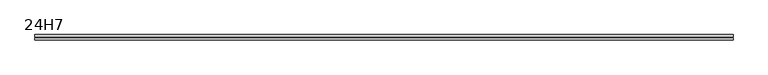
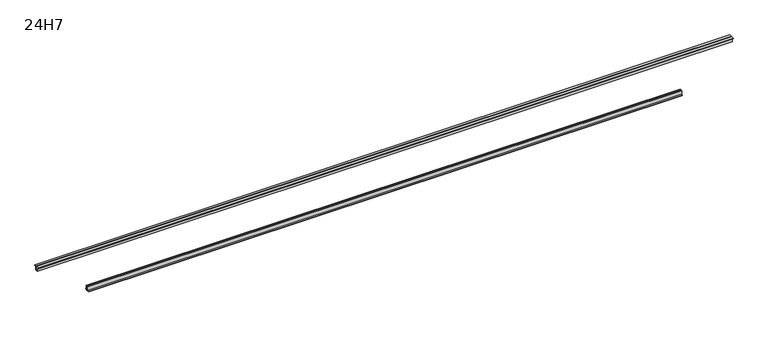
"""IFC4 building model written with IfcOpenShell, lengths in millimetres: beam geometry, steel H-series barjoist : 24H7."""

from ifc_helpers import new_model, si_unit, frame, origin, place, context, project, spatial, polyline, outline, extrude, source, transform, mapped, element, save


def beam_24h7_efb412ec(model_context):
    return source(origin(), model_context, "Body", "SweptSolid", [
        extrude(outline(polyline([(-38.1, -609.6), (-38.1, -596.9), (-18.5706618, -596.9), (-18.5706618, -546.1), (-5.8706618, -546.1), (-5.8706618, -609.6), (-38.1, -609.6)])), frame((-3150.1906977, 0.0, 0.0), z_axis=(1.0, 0.0, 0.0), x_axis=(0.0, 1.0, 0.0)), (0.0, 0.0, 1.0), 8331.2),
        extrude(outline(polyline([(38.1, -609.6), (5.8706618, -609.6), (5.8706618, -546.1), (18.5706618, -546.1), (18.5706618, -596.9), (38.1, -596.9), (38.1, -609.6)])), frame((-3150.1906977, 0.0, 0.0), z_axis=(1.0, 0.0, 0.0), x_axis=(0.0, 1.0, 0.0)), (0.0, 0.0, 1.0), 8331.2),
        extrude(outline(polyline([(-38.1, -12.7), (-38.1, 0.0), (-5.9792133, 0.0), (-5.9792133, -63.5), (-18.6792133, -63.5), (-18.6792133, -12.7), (-38.1, -12.7)])), frame((-3861.3906977, 0.0, 0.0), z_axis=(1.0, 0.0, 0.0), x_axis=(0.0, 1.0, 0.0)), (0.0, 0.0, 1.0), 9753.6),
        extrude(outline(polyline([(5.9792133, 0.0), (38.1, 0.0), (38.1, -12.7), (18.4943763, -12.7), (18.4943763, -63.5), (5.9792133, -63.5), (5.9792133, 0.0)])), frame((-3861.3906977, 0.0, 0.0), z_axis=(1.0, 0.0, 0.0), x_axis=(0.0, 1.0, 0.0)), (0.0, 0.0, 1.0), 9753.6),
    ])


if __name__ == "__main__":
    model = new_model("IFC4")
    model_context = context("Model", 3, world=origin())
    ifc_project = project(units=[si_unit("LENGTHUNIT", "METRE", prefix="MILLI")], contexts=[model_context])
    site = spatial("IfcSite", under=ifc_project)
    building = spatial("IfcBuilding", under=site)
    placement = place(None, origin())
    beam_24h7_shape = beam_24h7_efb412ec(model_context)
    element("IfcBeam", 1, ObjectType="steel H-series barjoist : 24H7", at=placement, inside=building, context=model_context, shape_type="MappedRepresentation", body=[
        mapped(beam_24h7_shape, transform((0.0, 0.0, 0.0), x_axis=(1.0, 0.0, 0.0), y_axis=(0.0, 1.0, 0.0), z_axis=(0.0, 0.0, 1.0))),
    ])
    save(model, "model.ifc")
